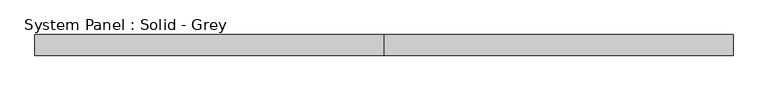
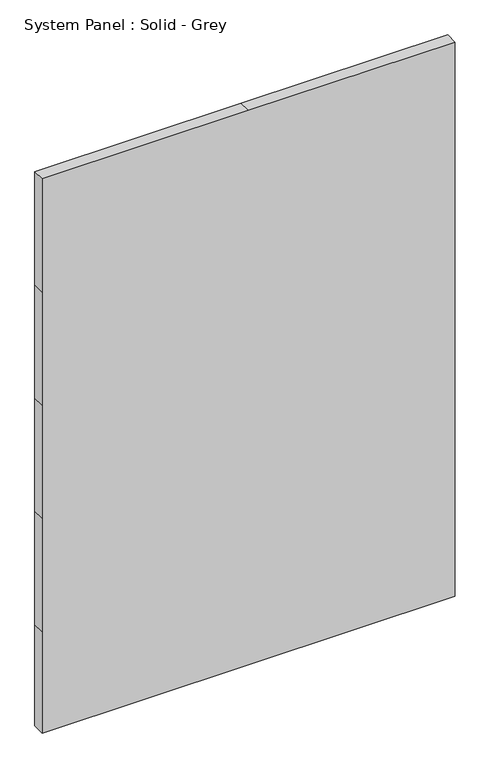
"""IFC4 building model written with IfcOpenShell, lengths in millimetres: plate geometry, System Panel : Solid - Grey."""

from ifc_helpers import new_model, si_unit, frame, origin, place, context, project, spatial, polyline, outline, extrude, source, transform, mapped, element, save


def system_panel_solid_grey_06e47abe(model_context):
    return source(origin(), model_context, "Body", "SweptSolid", [
        extrude(outline(polyline([(0.0, -1052.2857142), (0.0, 0.0), (0.0, 1052.2857142), (546.1, 1052.2857142), (1155.7, 1052.2857142), (1765.3, 1052.2857142), (2374.9, 1052.2857142), (2984.5, 1052.2857142), (2984.5, 0.0), (2984.5, -1052.2857142), (2374.9, -1052.2857142), (1765.3, -1052.2857142), (1155.7, -1052.2857142), (546.1, -1052.2857142), (0.0, -1052.2857142)])), frame((0.0, -19.05, 0.0), z_axis=(0.0, 1.0, 0.0), x_axis=(0.0, 0.0, 1.0)), (0.0, 0.0, 1.0), 63.5),
    ])


if __name__ == "__main__":
    model = new_model("IFC4")
    model_context = context("Model", 3, world=origin())
    ifc_project = project(units=[si_unit("LENGTHUNIT", "METRE", prefix="MILLI")], contexts=[model_context])
    site = spatial("IfcSite", under=ifc_project)
    building = spatial("IfcBuilding", under=site)
    placement = place(None, origin())
    system_panel_solid_grey_shape = system_panel_solid_grey_06e47abe(model_context)
    element("IfcPlate", 1, ObjectType="System Panel : Solid - Grey", at=placement, inside=building, context=model_context, shape_type="MappedRepresentation", body=[
        mapped(system_panel_solid_grey_shape, transform((0.0, 0.0, 0.0), x_axis=(1.0, 0.0, 0.0), y_axis=(0.0, 1.0, 0.0), z_axis=(0.0, 0.0, 1.0))),
    ])
    save(model, "model.ifc")
